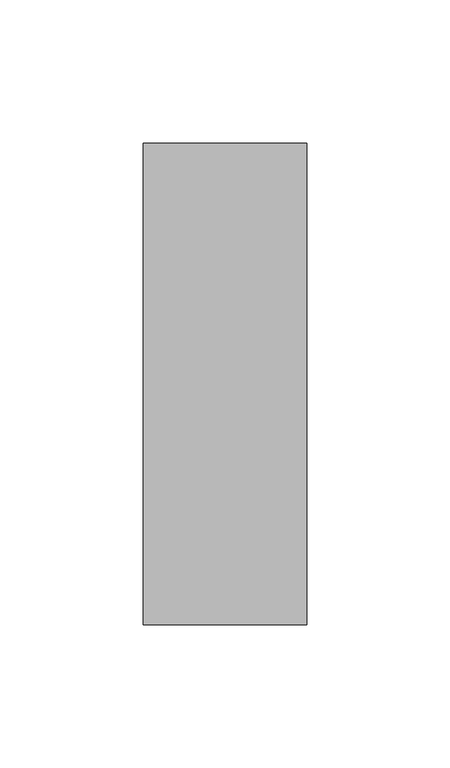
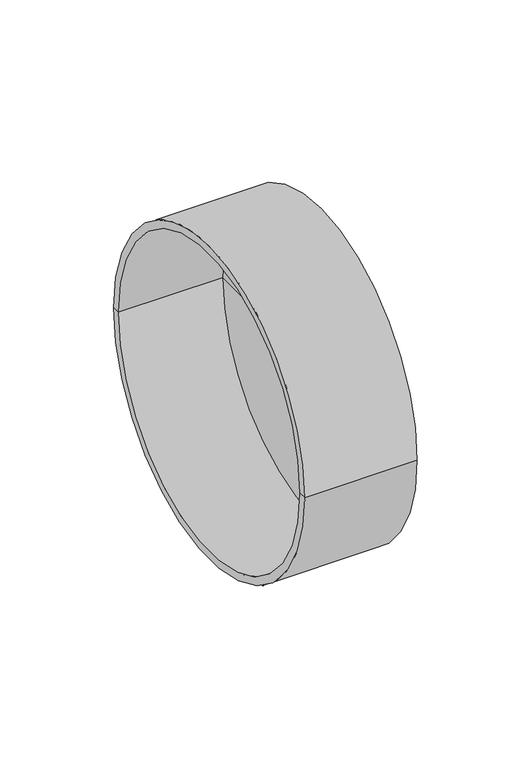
"""IFC4 building model written with IfcOpenShell, lengths in millimetres: pipe fitting geometry, pf_KGK_vicko : pf_KGK_vicko."""

from ifc_helpers import new_model, si_unit, frame, origin, place, context, project, spatial, polyline, circle_curve, source, transform, mapped, element, save
from ifc_brep_helpers import plane_surface, cylinder_surface, revolved_surface, advanced_brep


def pipe_fitting_f74dee84(model_context):
    return source(origin(), model_context, "Body", "AdvancedBrep", [
        advanced_brep(
        [(-53.0, -84.0, 0.0), (-53.0, 84.0, 0.0), (4.0, 84.0, 0.0), (4.0, -84.0, 0.0), (-53.0, -80.0, 0.0), (-53.0, 80.0, 0.0), (0.0, -80.0, 0.0), (0.0, 80.0, 0.0), (0.0, 0.0, 0.0), (4.0, 0.0, 0.0)],
        [
            (0, 1, circle_curve(frame((-53.0, 0.0, 0.0), z_axis=(1.0, 0.0, 0.0), x_axis=(0.0, 1.0, 0.0)), 84.0)),
            (1, 2),
            (2, 3, circle_curve(frame((4.0, 0.0, 0.0), z_axis=(-1.0, 0.0, 0.0), x_axis=(0.0, 1.0, 0.0)), 84.0)),
            (3, 0),
            (1, 0, circle_curve(frame((-53.0, 0.0, 0.0), z_axis=(1.0, 0.0, 0.0), x_axis=(0.0, 1.0, 0.0)), 84.0)),
            (3, 2, circle_curve(frame((4.0, 0.0, 0.0), z_axis=(-1.0, 0.0, 0.0), x_axis=(0.0, 1.0, 0.0)), 84.0)),
            (4, 5, circle_curve(frame((-53.0, 0.0, 0.0), z_axis=(1.0, 0.0, 0.0), x_axis=(0.0, 1.0, 0.0)), 80.0)),
            (5, 1),
            (0, 4),
            (5, 4, circle_curve(frame((-53.0, 0.0, 0.0), z_axis=(1.0, 0.0, 0.0), x_axis=(0.0, 1.0, 0.0)), 80.0)),
            (6, 7, circle_curve(frame((0.0, 0.0, 0.0), z_axis=(1.0, 0.0, 0.0), x_axis=(0.0, 1.0, 0.0)), 80.0)),
            (7, 5),
            (4, 6),
            (7, 6, circle_curve(frame((0.0, 0.0, 0.0), z_axis=(1.0, 0.0, 0.0), x_axis=(0.0, 1.0, 0.0)), 80.0)),
            (8, 7),
            (6, 8),
            (2, 9),
            (9, 3),
        ],
        [
            cylinder_surface(frame((-44.0241529, 0.0, 0.0), z_axis=(-1.0, 0.0, 0.0), x_axis=(0.0, 1.0, 0.0)), 84.0),
            plane_surface(frame((-53.0, 0.0, 0.0), z_axis=(-1.0, 0.0, 0.0), x_axis=(0.0, 1.0, 0.0))),
            revolved_surface(polyline([(-53.0, 80.0, 0.0), (0.0, 80.0, 0.0)]), (-44.0241529, 0.0, 0.0), (-1.0, 0.0, 0.0)),
            plane_surface(frame((0.0, 0.0, 0.0), z_axis=(-1.0, 0.0, 0.0), x_axis=(0.0, 1.0, 0.0))),
            plane_surface(frame((4.0, 0.0, 0.0), z_axis=(1.0, 0.0, 0.0), x_axis=(0.0, 1.0, 0.0))),
        ],
        [
            (0, [[1, 2, 3, 4]]),
            (0, [[5, -4, 6, -2]]),
            (1, [[7, 8, -1, 9]]),
            (1, [[10, -9, -5, -8]]),
            (2, [[11, 12, -7, 13]]),
            (2, [[14, -13, -10, -12]]),
            (3, [[15, -11, 16]]),
            (3, [[-16, -14, -15]]),
            (4, [[-3, 17, 18]]),
            (4, [[-6, -18, -17]]),
        ],
    ),
    ])


if __name__ == "__main__":
    model = new_model("IFC4")
    model_context = context("Model", 3, world=origin())
    ifc_project = project(units=[si_unit("LENGTHUNIT", "METRE", prefix="MILLI")], contexts=[model_context])
    site = spatial("IfcSite", under=ifc_project)
    building = spatial("IfcBuilding", under=site)
    placement = place(None, origin())
    pipe_fitting_shape = pipe_fitting_f74dee84(model_context)
    element("IfcPipeFitting", 1, ObjectType="pf_KGK_vicko : pf_KGK_vicko", at=placement, inside=building, context=model_context, shape_type="MappedRepresentation", body=[
        mapped(pipe_fitting_shape, transform((0.0, 0.0, 0.0), x_axis=(1.0, 0.0, 0.0), y_axis=(0.0, 1.0, 0.0), z_axis=(0.0, 0.0, 1.0))),
    ])
    save(model, "model.ifc")
